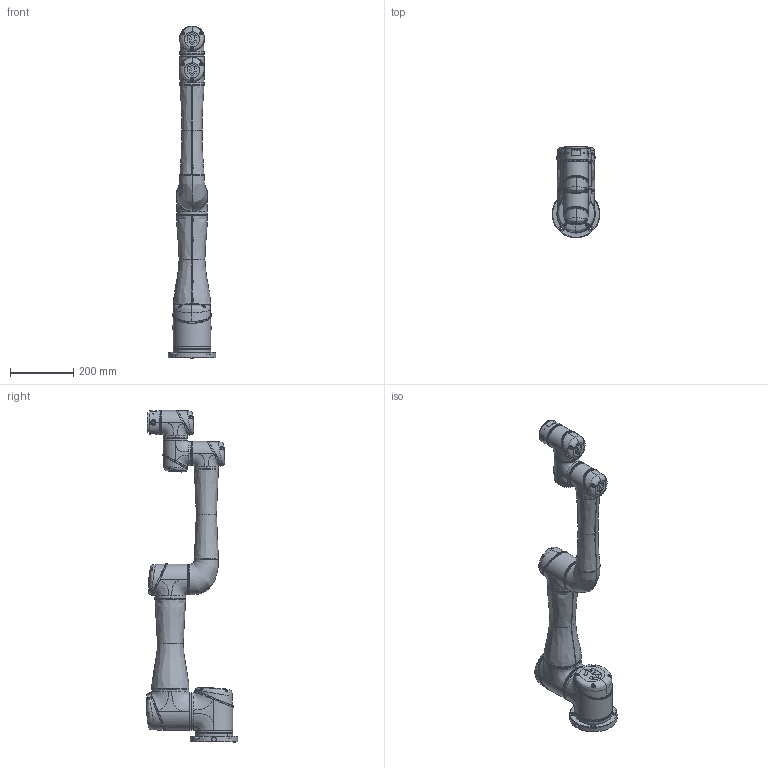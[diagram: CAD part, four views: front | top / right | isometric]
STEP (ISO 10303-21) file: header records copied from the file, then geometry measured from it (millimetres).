
FILE_DESCRIPTION (( 'STEP AP214' ), '1' );
FILE_NAME ('EC_掛极EC66_V1.1.STEP', '2023-05-17T02:24:18', ( '' ), ( '' ), 'SwSTEP 2.0', 'SolidWorks 2017', '' );
FILE_SCHEMA (( 'AUTOMOTIVE_DESIGN' ));
Length unit declared in the file: millimetre
Products named in the file (15): EC66-J5; EC66-Base; EC66-Link2A_Link2B_J4; EC66-J2_Link1_J3; EC66-J6; EC66-J1; EC_掛极EC66_V1.1; EC66-Flange
Assembly tree (7 placements, depth 2):
  EC66-J5
  EC66-Base
  EC66-Link2A_Link2B_J4
  EC66-J2_Link1_J3
  EC_掛极EC66_V1.1
    EC66-Base
    EC66-J1
    EC66-J2_Link1_J3
    EC66-Link2A_Link2B_J4
    EC66-J5
    EC66-J6
    EC66-Flange
Bounding box: 150 x 288.9 x 1049.53 mm (x, y, z)
Volume: 10461399.9 mm3; surface area: 642000.8 mm2
Topology: 11 solids, 40 shells, 2693 faces, 6305 edges, 3830 vertices
Faces by surface type: bspline 1551, plane 635, cylinder 245, cone 244, torus 18
Entity records: 239894 total; most frequent: CARTESIAN_POINT 160476, ORIENTED_EDGE 12554, DIRECTION 6585, EDGE_CURVE 6277, VERTEX_POINT 3830, B_SPLINE_CURVE_WITH_KNOTS 3273, EDGE_LOOP 2873, UNCERTAINTY_MEASURE_WITH_UNIT 2707
